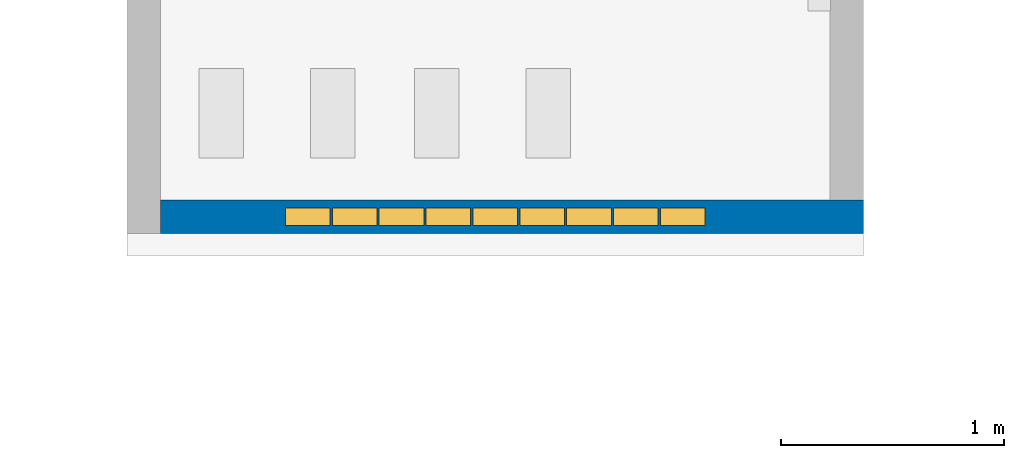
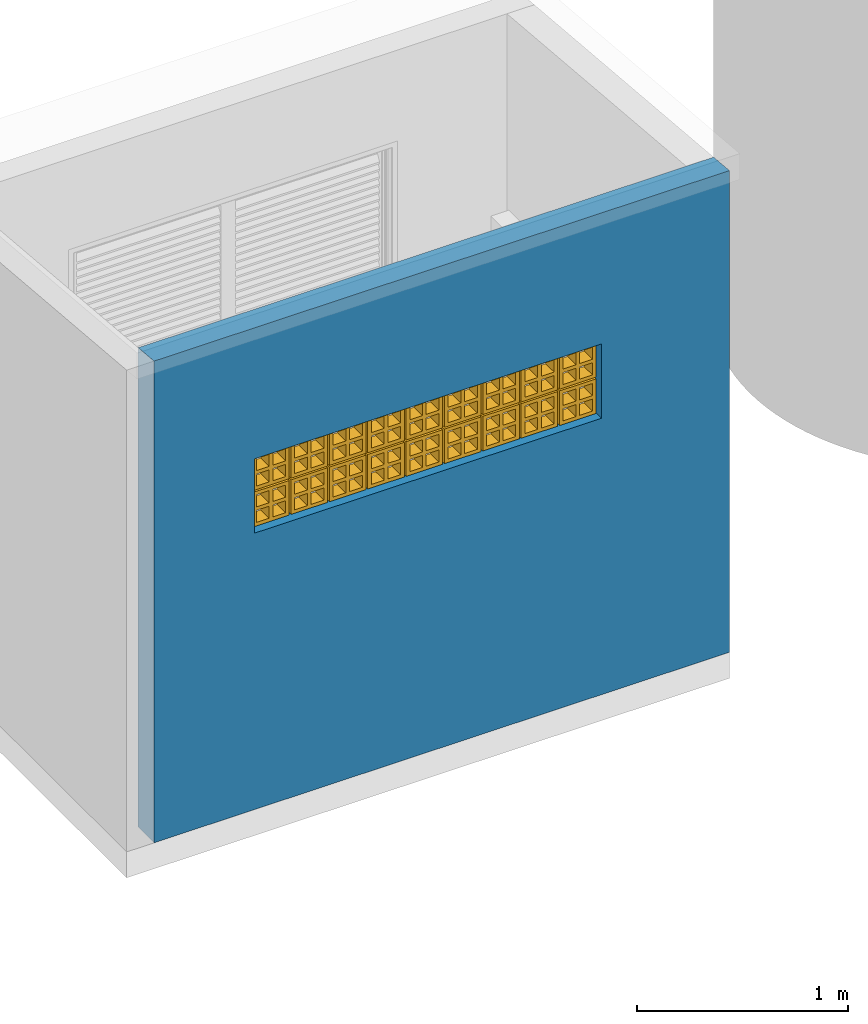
# One storey, part 2 of 119: 1 wall, 1 window, 1 opening.
"""IFC2X3 building model written with IfcOpenShell, lengths in metres."""

from ifc_helpers import new_model, entity, si_unit, converted_unit, derived_unit, direction, frame, frame_2d, origin, place, context, subcontext, project, spatial, polyline, rectangle, outline, extrude, clip, bounded_halfspace, source, transform, mapped, material, layer, layer_set, layer_usage, type_object, type_shapes, element, fill, save


model = new_model("IFC2X3")

# Units and contexts
model_context = context("Model", 3, precision=1e-05, world=origin(), true_north=direction((6.12303176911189e-17, 1.0)))
body_context = subcontext(model_context, "Body", "Model", "MODEL_VIEW")
ifc_project = project(units=[si_unit("LENGTHUNIT", "METRE"), si_unit("AREAUNIT", "SQUARE_METRE"), si_unit("VOLUMEUNIT", "CUBIC_METRE"), converted_unit("PLANEANGLEUNIT", "DEGREE", entity("IfcRatioMeasure", 0.0174532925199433), si_unit("PLANEANGLEUNIT", "RADIAN"), dimensions=[0, 0, 0, 0, 0, 0, 0]), si_unit("MASSUNIT", "GRAM", prefix="KILO"), derived_unit("MASSDENSITYUNIT", [(si_unit("MASSUNIT", "GRAM", prefix="KILO"), 1), (si_unit("LENGTHUNIT", "METRE"), -3)]), derived_unit("MOMENTOFINERTIAUNIT", [(si_unit("LENGTHUNIT", "METRE"), 4)]), si_unit("TIMEUNIT", "SECOND"), si_unit("FREQUENCYUNIT", "HERTZ"), si_unit("THERMODYNAMICTEMPERATUREUNIT", "DEGREE_CELSIUS"), derived_unit("THERMALTRANSMITTANCEUNIT", [(si_unit("MASSUNIT", "GRAM", prefix="KILO"), 1), (si_unit("THERMODYNAMICTEMPERATUREUNIT", "KELVIN"), -1), (si_unit("TIMEUNIT", "SECOND"), -3)]), derived_unit("VOLUMETRICFLOWRATEUNIT", [(si_unit("LENGTHUNIT", "METRE"), 3), (si_unit("TIMEUNIT", "SECOND"), -1)]), si_unit("ELECTRICCURRENTUNIT", "AMPERE"), si_unit("ELECTRICVOLTAGEUNIT", "VOLT"), si_unit("POWERUNIT", "WATT"), si_unit("FORCEUNIT", "NEWTON", prefix="KILO"), si_unit("ILLUMINANCEUNIT", "LUX"), si_unit("LUMINOUSFLUXUNIT", "LUMEN"), si_unit("LUMINOUSINTENSITYUNIT", "CANDELA"), derived_unit("USERDEFINED", [(si_unit("MASSUNIT", "GRAM", prefix="KILO"), -1), (si_unit("LENGTHUNIT", "METRE"), -2), (si_unit("TIMEUNIT", "SECOND"), 3), (si_unit("LUMINOUSFLUXUNIT", "LUMEN"), 1)]), derived_unit("LINEARVELOCITYUNIT", [(si_unit("LENGTHUNIT", "METRE"), 1), (si_unit("TIMEUNIT", "SECOND"), -1)]), si_unit("PRESSUREUNIT", "PASCAL"), derived_unit("USERDEFINED", [(si_unit("LENGTHUNIT", "METRE"), -2), (si_unit("MASSUNIT", "GRAM", prefix="KILO"), 1), (si_unit("TIMEUNIT", "SECOND"), -2)]), derived_unit("LINEARFORCEUNIT", [(si_unit("MASSUNIT", "GRAM", prefix="KILO"), 1), (si_unit("LENGTHUNIT", "METRE"), 1), (si_unit("TIMEUNIT", "SECOND"), -2), (si_unit("LENGTHUNIT", "METRE"), -1)]), derived_unit("PLANARFORCEUNIT", [(si_unit("MASSUNIT", "GRAM", prefix="KILO"), 1), (si_unit("LENGTHUNIT", "METRE"), 1), (si_unit("TIMEUNIT", "SECOND"), -2), (si_unit("LENGTHUNIT", "METRE"), -2)])], contexts=[model_context])

# Site, building, storey
site_placement = place(None, origin())
site = spatial("IfcSite", under=ifc_project, at=site_placement, Name="Default", CompositionType="ELEMENT")
building_placement = place(site_placement, origin())
building = spatial("IfcBuilding", under=site, at=building_placement, CompositionType="ELEMENT")
storey_placement = place(building_placement, origin())
storey = spatial("IfcBuildingStorey", under=building, at=storey_placement, Name="PAV. 01 - TÉRREO", CompositionType="ELEMENT", Elevation=0.0)

# Wall, opening, window
ifc_material_1 = material(Name="Alvenaria - Reboco")
ifc_layer_1 = layer(ifc_material_1, 0.025)
ifc_material_2 = material(Name="Alvenaria - Tijolo 8 furos")
ifc_layer_2 = layer(ifc_material_2, 0.1)
ifc_layer_3 = layer(ifc_material_1, 0.025)
ifc_layer_set = layer_set([ifc_layer_1, ifc_layer_2, ifc_layer_3], Name="Parede básica:Parede 15 - Externa")
ifc_layer_usage = layer_usage(ifc_layer_set, "AXIS2", "NEGATIVE", 0.075)
wall_type = type_object("IfcWallType", Name="Parede básica:Parede 15 - Externa", PredefinedType="STANDARD", material=ifc_layer_set)
wall_placement = place(storey_placement, frame((87.598788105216, 31.9120741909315, 0.0)))
wall = element("IfcWallStandardCase", 1, at=wall_placement, inside=storey, type_object=wall_type, material=ifc_layer_usage, Name="Parede básica:Parede 15 - Externa", ObjectType="Parede básica:Parede 15 - Externa", context=body_context, shape_type="Clipping", body=[
    clip(extrude(rectangle(XDim=3.14999999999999, YDim=0.150000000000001, at=frame_2d((1.575, -5.34294830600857e-16), x_axis=(-1.0, 0.0))), origin(), (0.0, 0.0, 1.0), 2.78810062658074), bounded_halfspace(frame((0.0, -0.0750000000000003, 2.78810062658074), z_axis=(0.0, 0.0871557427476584, 0.996194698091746), x_axis=(-1.0, 0.0, 0.0)), False, frame((0.0, -0.0750000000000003, 2.78810062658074)), polyline([(0.0, 0.0), (3.14999999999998, 0.0), (3.14999999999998, 0.150000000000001), (3.0, 0.150000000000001), (0.0, 0.150000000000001), (0.0, 0.0)]))),
])
opening_placement = place(wall_placement, frame((0.549999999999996, -0.0749999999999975, 1.6)))
opening = element("IfcOpeningElement", 2, at=opening_placement, cuts=wall, Name="Elemento Vazado:COB Window 11B:1", ObjectType="Opening", context=body_context, shape_type="SweptSolid", body=[
    extrude(rectangle(XDim=0.429999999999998, YDim=1.9, at=frame_2d((0.214999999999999, 0.950000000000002), x_axis=(1.0, 0.0))), frame((0.0, 0.0, 0.0), z_axis=(0.0, 1.0, 0.0), x_axis=(0.0, 0.0, 1.0)), (0.0, 0.0, 1.0), 0.15),
])
window_style = type_object("IfcWindowStyle", Name="Elemento Vazado:COB Window 11B", ConstructionType="NOTDEFINED", OperationType="NOTDEFINED", ParameterTakesPrecedence=False, Sizeable=False)
shared_shape = source(origin(), body_context, "Body", "SweptSolid", [
    extrude(outline(polyline([(-0.0999999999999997, -0.0999999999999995), (0.0999999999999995, -0.0999999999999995), (0.0999999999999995, 0.0999999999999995), (-0.0999999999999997, 0.0999999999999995), (-0.0999999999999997, -0.0999999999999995)]), holes=[polyline([(-0.0800000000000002, 0.0800000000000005), (-0.0100000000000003, 0.0800000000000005), (-0.0100000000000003, 0.00999999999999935), (-0.0800000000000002, 0.00999999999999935), (-0.0800000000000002, 0.0800000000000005)]), polyline([(-0.0100000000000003, -0.0800000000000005), (-0.0800000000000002, -0.0800000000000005), (-0.0800000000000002, -0.00999999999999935), (-0.0100000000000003, -0.00999999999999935), (-0.0100000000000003, -0.0800000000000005)]), polyline([(0.00999999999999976, -0.00999999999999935), (0.0799999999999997, -0.00999999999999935), (0.0799999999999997, -0.0800000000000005), (0.00999999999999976, -0.0800000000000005), (0.00999999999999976, -0.00999999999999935)]), polyline([(0.00999999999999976, 0.00999999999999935), (0.00999999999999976, 0.0800000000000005), (0.0799999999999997, 0.0800000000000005), (0.0799999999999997, 0.00999999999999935), (0.00999999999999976, 0.00999999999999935)])]), frame((0.110000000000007, 0.0350000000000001, 0.11), z_axis=(0.0, 1.0, 0.0), x_axis=(0.0, 0.0, -1.0)), (0.0, 0.0, 1.0), 0.08),
    extrude(outline(polyline([(-0.0999999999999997, -0.0999999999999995), (0.0999999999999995, -0.0999999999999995), (0.0999999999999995, 0.0999999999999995), (-0.0999999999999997, 0.0999999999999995), (-0.0999999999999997, -0.0999999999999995)]), holes=[polyline([(-0.0800000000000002, 0.0800000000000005), (-0.0100000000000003, 0.0800000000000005), (-0.0100000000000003, 0.00999999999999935), (-0.0800000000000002, 0.00999999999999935), (-0.0800000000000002, 0.0800000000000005)]), polyline([(-0.0100000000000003, -0.0800000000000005), (-0.0800000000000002, -0.0800000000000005), (-0.0800000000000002, -0.00999999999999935), (-0.0100000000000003, -0.00999999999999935), (-0.0100000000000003, -0.0800000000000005)]), polyline([(0.00999999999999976, -0.00999999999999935), (0.0799999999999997, -0.00999999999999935), (0.0799999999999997, -0.0800000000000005), (0.00999999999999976, -0.0800000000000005), (0.00999999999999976, -0.00999999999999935)]), polyline([(0.00999999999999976, 0.00999999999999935), (0.00999999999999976, 0.0800000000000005), (0.0799999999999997, 0.0800000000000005), (0.0799999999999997, 0.00999999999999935), (0.00999999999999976, 0.00999999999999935)])]), frame((0.320000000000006, 0.0350000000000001, 0.11), z_axis=(0.0, 1.0, 0.0), x_axis=(0.0, 0.0, -1.0)), (0.0, 0.0, 1.0), 0.08),
    extrude(outline(polyline([(-0.0999999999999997, -0.0999999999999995), (0.0999999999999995, -0.0999999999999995), (0.0999999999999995, 0.0999999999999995), (-0.0999999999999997, 0.0999999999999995), (-0.0999999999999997, -0.0999999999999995)]), holes=[polyline([(-0.0800000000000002, 0.0800000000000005), (-0.0100000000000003, 0.0800000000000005), (-0.0100000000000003, 0.00999999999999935), (-0.0800000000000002, 0.00999999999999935), (-0.0800000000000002, 0.0800000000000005)]), polyline([(-0.0100000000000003, -0.0800000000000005), (-0.0800000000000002, -0.0800000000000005), (-0.0800000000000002, -0.00999999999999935), (-0.0100000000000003, -0.00999999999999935), (-0.0100000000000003, -0.0800000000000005)]), polyline([(0.00999999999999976, -0.00999999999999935), (0.0799999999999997, -0.00999999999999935), (0.0799999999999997, -0.0800000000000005), (0.00999999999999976, -0.0800000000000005), (0.00999999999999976, -0.00999999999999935)]), polyline([(0.00999999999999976, 0.00999999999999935), (0.00999999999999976, 0.0800000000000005), (0.0799999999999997, 0.0800000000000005), (0.0799999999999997, 0.00999999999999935), (0.00999999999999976, 0.00999999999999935)])]), frame((0.530000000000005, 0.0350000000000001, 0.11), z_axis=(0.0, 1.0, 0.0), x_axis=(0.0, 0.0, -1.0)), (0.0, 0.0, 1.0), 0.08),
    extrude(outline(polyline([(-0.0999999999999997, -0.0999999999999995), (0.0999999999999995, -0.0999999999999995), (0.0999999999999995, 0.0999999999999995), (-0.0999999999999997, 0.0999999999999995), (-0.0999999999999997, -0.0999999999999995)]), holes=[polyline([(-0.0800000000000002, 0.0800000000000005), (-0.0100000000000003, 0.0800000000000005), (-0.0100000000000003, 0.00999999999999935), (-0.0800000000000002, 0.00999999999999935), (-0.0800000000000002, 0.0800000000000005)]), polyline([(-0.0100000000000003, -0.0800000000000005), (-0.0800000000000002, -0.0800000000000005), (-0.0800000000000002, -0.00999999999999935), (-0.0100000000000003, -0.00999999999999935), (-0.0100000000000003, -0.0800000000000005)]), polyline([(0.00999999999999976, -0.00999999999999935), (0.0799999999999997, -0.00999999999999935), (0.0799999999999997, -0.0800000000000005), (0.00999999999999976, -0.0800000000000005), (0.00999999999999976, -0.00999999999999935)]), polyline([(0.00999999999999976, 0.00999999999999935), (0.00999999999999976, 0.0800000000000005), (0.0799999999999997, 0.0800000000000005), (0.0799999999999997, 0.00999999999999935), (0.00999999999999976, 0.00999999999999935)])]), frame((0.740000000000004, 0.0350000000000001, 0.11), z_axis=(0.0, 1.0, 0.0), x_axis=(0.0, 0.0, -1.0)), (0.0, 0.0, 1.0), 0.08),
    extrude(outline(polyline([(-0.0999999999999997, -0.0999999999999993), (0.0999999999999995, -0.0999999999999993), (0.0999999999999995, 0.0999999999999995), (-0.0999999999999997, 0.0999999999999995), (-0.0999999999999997, -0.0999999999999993)]), holes=[polyline([(-0.0800000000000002, 0.0800000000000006), (-0.0100000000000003, 0.0800000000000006), (-0.0100000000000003, 0.00999999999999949), (-0.0800000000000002, 0.00999999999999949), (-0.0800000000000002, 0.0800000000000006)]), polyline([(-0.0100000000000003, -0.0800000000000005), (-0.0800000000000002, -0.0800000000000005), (-0.0800000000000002, -0.00999999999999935), (-0.0100000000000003, -0.00999999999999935), (-0.0100000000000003, -0.0800000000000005)]), polyline([(0.00999999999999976, -0.00999999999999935), (0.0799999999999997, -0.00999999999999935), (0.0799999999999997, -0.0800000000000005), (0.00999999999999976, -0.0800000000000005), (0.00999999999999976, -0.00999999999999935)]), polyline([(0.00999999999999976, 0.00999999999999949), (0.00999999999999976, 0.0800000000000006), (0.0799999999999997, 0.0800000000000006), (0.0799999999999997, 0.00999999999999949), (0.00999999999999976, 0.00999999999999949)])]), frame((0.950000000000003, 0.0350000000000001, 0.11), z_axis=(0.0, 1.0, 0.0), x_axis=(0.0, 0.0, -1.0)), (0.0, 0.0, 1.0), 0.08),
    extrude(outline(polyline([(-0.0999999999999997, -0.0999999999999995), (0.0999999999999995, -0.0999999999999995), (0.0999999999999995, 0.0999999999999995), (-0.0999999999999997, 0.0999999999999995), (-0.0999999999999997, -0.0999999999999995)]), holes=[polyline([(-0.0800000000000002, 0.0800000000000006), (-0.0100000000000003, 0.0800000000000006), (-0.0100000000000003, 0.00999999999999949), (-0.0800000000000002, 0.00999999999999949), (-0.0800000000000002, 0.0800000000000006)]), polyline([(-0.0100000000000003, -0.0800000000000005), (-0.0800000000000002, -0.0800000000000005), (-0.0800000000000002, -0.00999999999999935), (-0.0100000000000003, -0.00999999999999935), (-0.0100000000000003, -0.0800000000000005)]), polyline([(0.00999999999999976, -0.00999999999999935), (0.0799999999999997, -0.00999999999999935), (0.0799999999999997, -0.0800000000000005), (0.00999999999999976, -0.0800000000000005), (0.00999999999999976, -0.00999999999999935)]), polyline([(0.00999999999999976, 0.00999999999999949), (0.00999999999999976, 0.0800000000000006), (0.0799999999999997, 0.0800000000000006), (0.0799999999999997, 0.00999999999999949), (0.00999999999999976, 0.00999999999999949)])]), frame((1.16, 0.0350000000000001, 0.11), z_axis=(0.0, 1.0, 0.0), x_axis=(0.0, 0.0, -1.0)), (0.0, 0.0, 1.0), 0.08),
    extrude(outline(polyline([(-0.0999999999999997, -0.0999999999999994), (0.0999999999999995, -0.0999999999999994), (0.0999999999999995, 0.0999999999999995), (-0.0999999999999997, 0.0999999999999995), (-0.0999999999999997, -0.0999999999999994)]), holes=[polyline([(-0.0800000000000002, 0.0800000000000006), (-0.0100000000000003, 0.0800000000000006), (-0.0100000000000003, 0.00999999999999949), (-0.0800000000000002, 0.00999999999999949), (-0.0800000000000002, 0.0800000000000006)]), polyline([(-0.0100000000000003, -0.0800000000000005), (-0.0800000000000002, -0.0800000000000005), (-0.0800000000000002, -0.00999999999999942), (-0.0100000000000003, -0.00999999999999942), (-0.0100000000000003, -0.0800000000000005)]), polyline([(0.00999999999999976, -0.00999999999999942), (0.0799999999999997, -0.00999999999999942), (0.0799999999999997, -0.0800000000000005), (0.00999999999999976, -0.0800000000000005), (0.00999999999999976, -0.00999999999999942)]), polyline([(0.00999999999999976, 0.00999999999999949), (0.00999999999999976, 0.0800000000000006), (0.0799999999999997, 0.0800000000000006), (0.0799999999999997, 0.00999999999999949), (0.00999999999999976, 0.00999999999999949)])]), frame((1.37, 0.0350000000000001, 0.11), z_axis=(0.0, 1.0, 0.0), x_axis=(0.0, 0.0, -1.0)), (0.0, 0.0, 1.0), 0.08),
    extrude(outline(polyline([(-0.0999999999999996, -0.0999999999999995), (0.0999999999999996, -0.0999999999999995), (0.0999999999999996, 0.0999999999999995), (-0.0999999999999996, 0.0999999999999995), (-0.0999999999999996, -0.0999999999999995)]), holes=[polyline([(-0.0800000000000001, 0.0800000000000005), (-0.0100000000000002, 0.0800000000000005), (-0.0100000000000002, 0.00999999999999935), (-0.0800000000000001, 0.00999999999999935), (-0.0800000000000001, 0.0800000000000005)]), polyline([(-0.0100000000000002, -0.0800000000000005), (-0.0800000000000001, -0.0800000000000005), (-0.0800000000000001, -0.00999999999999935), (-0.0100000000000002, -0.00999999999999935), (-0.0100000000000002, -0.0800000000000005)]), polyline([(0.00999999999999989, -0.00999999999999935), (0.0799999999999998, -0.00999999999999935), (0.0799999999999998, -0.0800000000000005), (0.00999999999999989, -0.0800000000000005), (0.00999999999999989, -0.00999999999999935)]), polyline([(0.00999999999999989, 0.00999999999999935), (0.00999999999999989, 0.0800000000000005), (0.0799999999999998, 0.0800000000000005), (0.0799999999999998, 0.00999999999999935), (0.00999999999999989, 0.00999999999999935)])]), frame((0.110000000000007, 0.0349999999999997, 0.319999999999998), z_axis=(0.0, 1.0, 0.0), x_axis=(0.0, 0.0, -1.0)), (0.0, 0.0, 1.0), 0.08),
    extrude(outline(polyline([(-0.0999999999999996, -0.0999999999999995), (0.0999999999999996, -0.0999999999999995), (0.0999999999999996, 0.0999999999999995), (-0.0999999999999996, 0.0999999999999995), (-0.0999999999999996, -0.0999999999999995)]), holes=[polyline([(-0.0800000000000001, 0.0800000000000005), (-0.0100000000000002, 0.0800000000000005), (-0.0100000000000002, 0.00999999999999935), (-0.0800000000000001, 0.00999999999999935), (-0.0800000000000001, 0.0800000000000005)]), polyline([(-0.0100000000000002, -0.0800000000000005), (-0.0800000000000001, -0.0800000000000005), (-0.0800000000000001, -0.00999999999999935), (-0.0100000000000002, -0.00999999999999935), (-0.0100000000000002, -0.0800000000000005)]), polyline([(0.00999999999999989, -0.00999999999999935), (0.0799999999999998, -0.00999999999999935), (0.0799999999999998, -0.0800000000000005), (0.00999999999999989, -0.0800000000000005), (0.00999999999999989, -0.00999999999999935)]), polyline([(0.00999999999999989, 0.00999999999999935), (0.00999999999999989, 0.0800000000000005), (0.0799999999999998, 0.0800000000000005), (0.0799999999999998, 0.00999999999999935), (0.00999999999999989, 0.00999999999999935)])]), frame((0.320000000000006, 0.0349999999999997, 0.319999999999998), z_axis=(0.0, 1.0, 0.0), x_axis=(0.0, 0.0, -1.0)), (0.0, 0.0, 1.0), 0.08),
    extrude(outline(polyline([(-0.0999999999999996, -0.0999999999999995), (0.0999999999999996, -0.0999999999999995), (0.0999999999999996, 0.0999999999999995), (-0.0999999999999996, 0.0999999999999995), (-0.0999999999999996, -0.0999999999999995)]), holes=[polyline([(-0.0800000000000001, 0.0800000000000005), (-0.0100000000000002, 0.0800000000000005), (-0.0100000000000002, 0.00999999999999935), (-0.0800000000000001, 0.00999999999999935), (-0.0800000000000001, 0.0800000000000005)]), polyline([(-0.0100000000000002, -0.0800000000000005), (-0.0800000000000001, -0.0800000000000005), (-0.0800000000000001, -0.00999999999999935), (-0.0100000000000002, -0.00999999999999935), (-0.0100000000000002, -0.0800000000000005)]), polyline([(0.00999999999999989, -0.00999999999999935), (0.0799999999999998, -0.00999999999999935), (0.0799999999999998, -0.0800000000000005), (0.00999999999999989, -0.0800000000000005), (0.00999999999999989, -0.00999999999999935)]), polyline([(0.00999999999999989, 0.00999999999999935), (0.00999999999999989, 0.0800000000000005), (0.0799999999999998, 0.0800000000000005), (0.0799999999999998, 0.00999999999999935), (0.00999999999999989, 0.00999999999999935)])]), frame((0.530000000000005, 0.0349999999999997, 0.319999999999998), z_axis=(0.0, 1.0, 0.0), x_axis=(0.0, 0.0, -1.0)), (0.0, 0.0, 1.0), 0.08),
    extrude(outline(polyline([(-0.0999999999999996, -0.0999999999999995), (0.0999999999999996, -0.0999999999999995), (0.0999999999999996, 0.0999999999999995), (-0.0999999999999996, 0.0999999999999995), (-0.0999999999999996, -0.0999999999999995)]), holes=[polyline([(-0.0800000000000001, 0.0800000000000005), (-0.0100000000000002, 0.0800000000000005), (-0.0100000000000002, 0.00999999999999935), (-0.0800000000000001, 0.00999999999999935), (-0.0800000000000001, 0.0800000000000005)]), polyline([(-0.0100000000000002, -0.0800000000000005), (-0.0800000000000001, -0.0800000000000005), (-0.0800000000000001, -0.00999999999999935), (-0.0100000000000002, -0.00999999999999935), (-0.0100000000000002, -0.0800000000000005)]), polyline([(0.00999999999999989, -0.00999999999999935), (0.0799999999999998, -0.00999999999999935), (0.0799999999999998, -0.0800000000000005), (0.00999999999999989, -0.0800000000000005), (0.00999999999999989, -0.00999999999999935)]), polyline([(0.00999999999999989, 0.00999999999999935), (0.00999999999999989, 0.0800000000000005), (0.0799999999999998, 0.0800000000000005), (0.0799999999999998, 0.00999999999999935), (0.00999999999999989, 0.00999999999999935)])]), frame((0.740000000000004, 0.0349999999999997, 0.319999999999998), z_axis=(0.0, 1.0, 0.0), x_axis=(0.0, 0.0, -1.0)), (0.0, 0.0, 1.0), 0.08),
    extrude(outline(polyline([(-0.0999999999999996, -0.0999999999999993), (0.0999999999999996, -0.0999999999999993), (0.0999999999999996, 0.0999999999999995), (-0.0999999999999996, 0.0999999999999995), (-0.0999999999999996, -0.0999999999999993)]), holes=[polyline([(-0.0800000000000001, 0.0800000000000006), (-0.0100000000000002, 0.0800000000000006), (-0.0100000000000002, 0.00999999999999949), (-0.0800000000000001, 0.00999999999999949), (-0.0800000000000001, 0.0800000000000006)]), polyline([(-0.0100000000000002, -0.0800000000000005), (-0.0800000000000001, -0.0800000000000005), (-0.0800000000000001, -0.00999999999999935), (-0.0100000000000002, -0.00999999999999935), (-0.0100000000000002, -0.0800000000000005)]), polyline([(0.00999999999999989, -0.00999999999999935), (0.0799999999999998, -0.00999999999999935), (0.0799999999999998, -0.0800000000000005), (0.00999999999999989, -0.0800000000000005), (0.00999999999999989, -0.00999999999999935)]), polyline([(0.00999999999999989, 0.00999999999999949), (0.00999999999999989, 0.0800000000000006), (0.0799999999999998, 0.0800000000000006), (0.0799999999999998, 0.00999999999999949), (0.00999999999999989, 0.00999999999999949)])]), frame((0.950000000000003, 0.0349999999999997, 0.319999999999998), z_axis=(0.0, 1.0, 0.0), x_axis=(0.0, 0.0, -1.0)), (0.0, 0.0, 1.0), 0.08),
    extrude(outline(polyline([(-0.0999999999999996, -0.0999999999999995), (0.0999999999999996, -0.0999999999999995), (0.0999999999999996, 0.0999999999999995), (-0.0999999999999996, 0.0999999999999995), (-0.0999999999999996, -0.0999999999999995)]), holes=[polyline([(-0.0800000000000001, 0.0800000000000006), (-0.0100000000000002, 0.0800000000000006), (-0.0100000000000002, 0.00999999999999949), (-0.0800000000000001, 0.00999999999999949), (-0.0800000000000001, 0.0800000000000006)]), polyline([(-0.0100000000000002, -0.0800000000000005), (-0.0800000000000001, -0.0800000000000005), (-0.0800000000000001, -0.00999999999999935), (-0.0100000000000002, -0.00999999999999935), (-0.0100000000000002, -0.0800000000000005)]), polyline([(0.00999999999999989, -0.00999999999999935), (0.0799999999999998, -0.00999999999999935), (0.0799999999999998, -0.0800000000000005), (0.00999999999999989, -0.0800000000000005), (0.00999999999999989, -0.00999999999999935)]), polyline([(0.00999999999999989, 0.00999999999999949), (0.00999999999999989, 0.0800000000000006), (0.0799999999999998, 0.0800000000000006), (0.0799999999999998, 0.00999999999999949), (0.00999999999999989, 0.00999999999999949)])]), frame((1.16, 0.0349999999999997, 0.319999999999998), z_axis=(0.0, 1.0, 0.0), x_axis=(0.0, 0.0, -1.0)), (0.0, 0.0, 1.0), 0.08),
    extrude(outline(polyline([(-0.0999999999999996, -0.0999999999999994), (0.0999999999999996, -0.0999999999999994), (0.0999999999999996, 0.0999999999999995), (-0.0999999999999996, 0.0999999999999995), (-0.0999999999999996, -0.0999999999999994)]), holes=[polyline([(-0.0800000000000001, 0.0800000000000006), (-0.0100000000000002, 0.0800000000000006), (-0.0100000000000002, 0.00999999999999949), (-0.0800000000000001, 0.00999999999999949), (-0.0800000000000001, 0.0800000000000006)]), polyline([(-0.0100000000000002, -0.0800000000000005), (-0.0800000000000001, -0.0800000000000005), (-0.0800000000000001, -0.00999999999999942), (-0.0100000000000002, -0.00999999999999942), (-0.0100000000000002, -0.0800000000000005)]), polyline([(0.00999999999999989, -0.00999999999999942), (0.0799999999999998, -0.00999999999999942), (0.0799999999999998, -0.0800000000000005), (0.00999999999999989, -0.0800000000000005), (0.00999999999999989, -0.00999999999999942)]), polyline([(0.00999999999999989, 0.00999999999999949), (0.00999999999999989, 0.0800000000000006), (0.0799999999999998, 0.0800000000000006), (0.0799999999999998, 0.00999999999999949), (0.00999999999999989, 0.00999999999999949)])]), frame((1.37, 0.0349999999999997, 0.319999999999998), z_axis=(0.0, 1.0, 0.0), x_axis=(0.0, 0.0, -1.0)), (0.0, 0.0, 1.0), 0.08),
    extrude(outline(polyline([(-0.0999999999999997, -0.0999999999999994), (0.0999999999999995, -0.0999999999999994), (0.0999999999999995, 0.0999999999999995), (-0.0999999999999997, 0.0999999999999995), (-0.0999999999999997, -0.0999999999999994)]), holes=[polyline([(-0.0800000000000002, 0.0800000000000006), (-0.0100000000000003, 0.0800000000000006), (-0.0100000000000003, 0.00999999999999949), (-0.0800000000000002, 0.00999999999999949), (-0.0800000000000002, 0.0800000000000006)]), polyline([(-0.0100000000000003, -0.0800000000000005), (-0.0800000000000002, -0.0800000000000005), (-0.0800000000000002, -0.00999999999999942), (-0.0100000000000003, -0.00999999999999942), (-0.0100000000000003, -0.0800000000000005)]), polyline([(0.00999999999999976, -0.00999999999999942), (0.0799999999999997, -0.00999999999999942), (0.0799999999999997, -0.0800000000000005), (0.00999999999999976, -0.0800000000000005), (0.00999999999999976, -0.00999999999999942)]), polyline([(0.00999999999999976, 0.00999999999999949), (0.00999999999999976, 0.0800000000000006), (0.0799999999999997, 0.0800000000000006), (0.0799999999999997, 0.00999999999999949), (0.00999999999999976, 0.00999999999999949)])]), frame((1.58, 0.0349999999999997, 0.319999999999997), z_axis=(0.0, 1.0, 0.0), x_axis=(0.0, 0.0, -1.0)), (0.0, 0.0, 1.0), 0.08),
    extrude(outline(polyline([(-0.0999999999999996, -0.0999999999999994), (0.0999999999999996, -0.0999999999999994), (0.0999999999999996, 0.0999999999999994), (-0.0999999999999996, 0.0999999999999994), (-0.0999999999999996, -0.0999999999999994)]), holes=[polyline([(-0.0800000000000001, 0.0800000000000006), (-0.0100000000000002, 0.0800000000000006), (-0.0100000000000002, 0.00999999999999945), (-0.0800000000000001, 0.00999999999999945), (-0.0800000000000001, 0.0800000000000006)]), polyline([(-0.0100000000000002, -0.0800000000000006), (-0.0800000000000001, -0.0800000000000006), (-0.0800000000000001, -0.00999999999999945), (-0.0100000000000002, -0.00999999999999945), (-0.0100000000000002, -0.0800000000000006)]), polyline([(0.00999999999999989, -0.00999999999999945), (0.0799999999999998, -0.00999999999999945), (0.0799999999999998, -0.0800000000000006), (0.00999999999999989, -0.0800000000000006), (0.00999999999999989, -0.00999999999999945)]), polyline([(0.00999999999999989, 0.00999999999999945), (0.00999999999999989, 0.0800000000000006), (0.0799999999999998, 0.0800000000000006), (0.0799999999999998, 0.00999999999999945), (0.00999999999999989, 0.00999999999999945)])]), frame((1.79, 0.0349999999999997, 0.319999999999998), z_axis=(0.0, 1.0, 0.0), x_axis=(0.0, 0.0, -1.0)), (0.0, 0.0, 1.0), 0.08),
    extrude(outline(polyline([(-0.0999999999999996, -0.0999999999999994), (0.0999999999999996, -0.0999999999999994), (0.0999999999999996, 0.0999999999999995), (-0.0999999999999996, 0.0999999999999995), (-0.0999999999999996, -0.0999999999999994)]), holes=[polyline([(-0.0800000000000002, 0.0800000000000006), (-0.0100000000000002, 0.0800000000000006), (-0.0100000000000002, 0.00999999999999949), (-0.0800000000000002, 0.00999999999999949), (-0.0800000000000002, 0.0800000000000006)]), polyline([(-0.0100000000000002, -0.0800000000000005), (-0.0800000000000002, -0.0800000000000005), (-0.0800000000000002, -0.00999999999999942), (-0.0100000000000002, -0.00999999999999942), (-0.0100000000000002, -0.0800000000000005)]), polyline([(0.00999999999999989, -0.00999999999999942), (0.0799999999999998, -0.00999999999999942), (0.0799999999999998, -0.0800000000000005), (0.00999999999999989, -0.0800000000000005), (0.00999999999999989, -0.00999999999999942)]), polyline([(0.00999999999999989, 0.00999999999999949), (0.00999999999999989, 0.0800000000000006), (0.0799999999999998, 0.0800000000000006), (0.0799999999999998, 0.00999999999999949), (0.00999999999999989, 0.00999999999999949)])]), frame((1.58, 0.0350000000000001, 0.109999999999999), z_axis=(0.0, 1.0, 0.0), x_axis=(0.0, 0.0, -1.0)), (0.0, 0.0, 1.0), 0.08),
    extrude(outline(polyline([(-0.0999999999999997, -0.0999999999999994), (0.0999999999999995, -0.0999999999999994), (0.0999999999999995, 0.0999999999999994), (-0.0999999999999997, 0.0999999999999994), (-0.0999999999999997, -0.0999999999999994)]), holes=[polyline([(-0.0800000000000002, 0.0800000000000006), (-0.0100000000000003, 0.0800000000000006), (-0.0100000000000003, 0.00999999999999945), (-0.0800000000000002, 0.00999999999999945), (-0.0800000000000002, 0.0800000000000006)]), polyline([(-0.0100000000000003, -0.0800000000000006), (-0.0800000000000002, -0.0800000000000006), (-0.0800000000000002, -0.00999999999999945), (-0.0100000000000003, -0.00999999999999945), (-0.0100000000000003, -0.0800000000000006)]), polyline([(0.00999999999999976, -0.00999999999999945), (0.0799999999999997, -0.00999999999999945), (0.0799999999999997, -0.0800000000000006), (0.00999999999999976, -0.0800000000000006), (0.00999999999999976, -0.00999999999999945)]), polyline([(0.00999999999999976, 0.00999999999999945), (0.00999999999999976, 0.0800000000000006), (0.0799999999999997, 0.0800000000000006), (0.0799999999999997, 0.00999999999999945), (0.00999999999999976, 0.00999999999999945)])]), frame((1.79, 0.0350000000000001, 0.11), z_axis=(0.0, 1.0, 0.0), x_axis=(0.0, 0.0, -1.0)), (0.0, 0.0, 1.0), 0.08),
])
type_shapes(window_style, [shared_shape])
window_placement = place(opening_placement, origin())
window = element("IfcWindow", 3, at=window_placement, inside=storey, type_object=window_style, Name="Elemento Vazado:COB Window 11B", ObjectType="Elemento Vazado:COB Window 11B", OverallHeight=0.429999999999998, OverallWidth=1.9, context=body_context, shape_type="MappedRepresentation", body=[
    mapped(shared_shape, transform((0.0, 0.0, 0.0), scale=1.0)),
])
fill(opening, window)

save(model, "model.ifc")
